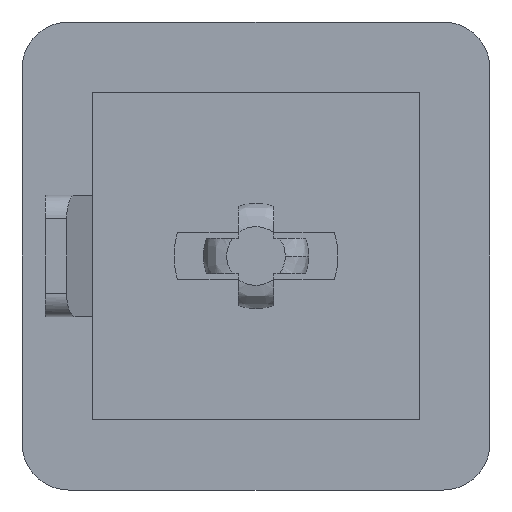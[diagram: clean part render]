
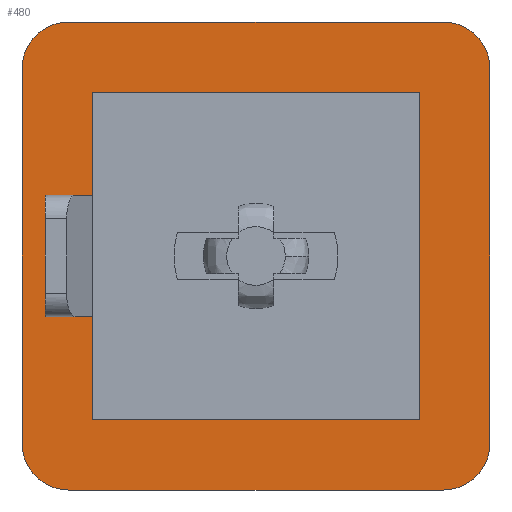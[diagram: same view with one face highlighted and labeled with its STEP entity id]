
A CAD part, front view. The second image highlights one B-rep face of the part: STEP entity #480.
In plain terms, the highlighted planar face has unit normal (0, -1, 0).
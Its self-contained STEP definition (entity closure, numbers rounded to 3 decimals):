
#60 = LINE ( 'NONE', #1282, #1123 ) ;
#65 = CARTESIAN_POINT ( 'NONE',  ( -10., 1.291, -6.209 ) ) ;
#82 = DIRECTION ( 'NONE',  ( 0., 0., 1. ) ) ;
#95 = DIRECTION ( 'NONE',  ( 1., 0., 0. ) ) ;
#134 = VERTEX_POINT ( 'NONE', #707 ) ;
#169 = VERTEX_POINT ( 'NONE', #904 ) ;
#170 = VECTOR ( 'NONE', #95, 1000. ) ;
#191 = ORIENTED_EDGE ( 'NONE', *, *, #1059, .T. ) ;
#218 = VECTOR ( 'NONE', #362, 1000. ) ;
#222 = AXIS2_PLACEMENT_3D ( 'NONE', #374, #363, #527 ) ;
#260 = DIRECTION ( 'NONE',  ( 1., 0., 0. ) ) ;
#270 = LINE ( 'NONE', #1076, #643 ) ;
#273 = ORIENTED_EDGE ( 'NONE', *, *, #1536, .T. ) ;
#282 = CARTESIAN_POINT ( 'NONE',  ( -10., 1.291, 13.791 ) ) ;
#339 = EDGE_CURVE ( 'NONE', #1781, #1254, #897, .T. ) ;
#343 = ORIENTED_EDGE ( 'NONE', *, *, #1545, .T. ) ;
#362 = DIRECTION ( 'NONE',  ( 0., 0., 1. ) ) ;
#363 = DIRECTION ( 'NONE',  ( 0., -1., 0. ) ) ;
#374 = CARTESIAN_POINT ( 'NONE',  ( -8., 1.291, 11.791 ) ) ;
#378 = EDGE_CURVE ( 'NONE', #604, #1624, #570, .T. ) ;
#388 = DIRECTION ( 'NONE',  ( 1., 0., 0. ) ) ;
#390 = DIRECTION ( 'NONE',  ( 0., 0., 1. ) ) ;
#396 = LINE ( 'NONE', #1121, #758 ) ;
#408 = DIRECTION ( 'NONE',  ( 0., -1., 0. ) ) ;
#409 = EDGE_CURVE ( 'NONE', #1099, #1046, #1520, .T. ) ;
#414 = CARTESIAN_POINT ( 'NONE',  ( 10., 1.291, -3.209 ) ) ;
#426 = CARTESIAN_POINT ( 'NONE',  ( -7., 1.291, -6.209 ) ) ;
#453 = PLANE ( 'NONE',  #1972 ) ;
#456 = CARTESIAN_POINT ( 'NONE',  ( 8., 1.291, 13.791 ) ) ;
#476 = CARTESIAN_POINT ( 'NONE',  ( -7., 1.291, -6.209 ) ) ;
#480 = ADVANCED_FACE ( 'NONE', ( #859, #926 ), #453, .T. ) ;
#490 = VERTEX_POINT ( 'NONE', #1464 ) ;
#527 = DIRECTION ( 'NONE',  ( -1., 0., 0. ) ) ;
#562 = CARTESIAN_POINT ( 'NONE',  ( -8., 1.291, -4.209 ) ) ;
#565 = VECTOR ( 'NONE', #390, 1000. ) ;
#569 = LINE ( 'NONE', #414, #980 ) ;
#570 = CIRCLE ( 'NONE', #222, 2. ) ;
#580 = ORIENTED_EDGE ( 'NONE', *, *, #1089, .T. ) ;
#585 = VERTEX_POINT ( 'NONE', #1939 ) ;
#604 = VERTEX_POINT ( 'NONE', #1471 ) ;
#612 = EDGE_CURVE ( 'NONE', #1254, #134, #60, .T. ) ;
#618 = ORIENTED_EDGE ( 'NONE', *, *, #1283, .T. ) ;
#619 = DIRECTION ( 'NONE',  ( 1., 0., 0. ) ) ;
#643 = VECTOR ( 'NONE', #1867, 1000. ) ;
#656 = CARTESIAN_POINT ( 'NONE',  ( 7., 1.291, -6.209 ) ) ;
#707 = CARTESIAN_POINT ( 'NONE',  ( -9., 1.291, 6.391 ) ) ;
#719 = LINE ( 'NONE', #65, #1507 ) ;
#751 = EDGE_CURVE ( 'NONE', #1892, #1099, #1049, .T. ) ;
#758 = VECTOR ( 'NONE', #82, 1000. ) ;
#812 = CARTESIAN_POINT ( 'NONE',  ( 7., 1.291, 10.791 ) ) ;
#827 = CARTESIAN_POINT ( 'NONE',  ( 10., 1.291, 11.791 ) ) ;
#833 = DIRECTION ( 'NONE',  ( -1., 0., 0. ) ) ;
#859 = FACE_BOUND ( 'NONE', #1153, .T. ) ;
#885 = ORIENTED_EDGE ( 'NONE', *, *, #751, .T. ) ;
#897 = LINE ( 'NONE', #1838, #931 ) ;
#904 = CARTESIAN_POINT ( 'NONE',  ( -8., 1.291, -6.209 ) ) ;
#913 = EDGE_CURVE ( 'NONE', #1198, #1000, #396, .T. ) ;
#926 = FACE_OUTER_BOUND ( 'NONE', #1087, .T. ) ;
#930 = VECTOR ( 'NONE', #1192, 1000. ) ;
#931 = VECTOR ( 'NONE', #946, 1000. ) ;
#932 = VERTEX_POINT ( 'NONE', #456 ) ;
#935 = CARTESIAN_POINT ( 'NONE',  ( 8., 1.291, -4.209 ) ) ;
#946 = DIRECTION ( 'NONE',  ( -1., 0., 0. ) ) ;
#980 = VECTOR ( 'NONE', #1988, 1000. ) ;
#1000 = VERTEX_POINT ( 'NONE', #827 ) ;
#1012 = ORIENTED_EDGE ( 'NONE', *, *, #339, .T. ) ;
#1014 = EDGE_CURVE ( 'NONE', #1198, #585, #1070, .T. ) ;
#1046 = VERTEX_POINT ( 'NONE', #1400 ) ;
#1049 = LINE ( 'NONE', #1650, #170 ) ;
#1059 = EDGE_CURVE ( 'NONE', #1499, #1892, #1394, .T. ) ;
#1070 = CIRCLE ( 'NONE', #1870, 2. ) ;
#1076 = CARTESIAN_POINT ( 'NONE',  ( -10., 1.291, 13.791 ) ) ;
#1080 = ORIENTED_EDGE ( 'NONE', *, *, #913, .T. ) ;
#1087 = EDGE_LOOP ( 'NONE', ( #1080, #1274, #1382, #1889, #343, #580, #1231, #1831 ) ) ;
#1089 = EDGE_CURVE ( 'NONE', #490, #169, #1732, .T. ) ;
#1099 = VERTEX_POINT ( 'NONE', #812 ) ;
#1110 = DIRECTION ( 'NONE',  ( 0., 0., -1. ) ) ;
#1121 = CARTESIAN_POINT ( 'NONE',  ( 10., 1.291, 13.791 ) ) ;
#1123 = VECTOR ( 'NONE', #1852, 1000. ) ;
#1153 = EDGE_LOOP ( 'NONE', ( #1233, #273, #618, #1012, #1926, #1442, #191, #885 ) ) ;
#1192 = DIRECTION ( 'NONE',  ( 0., 0., -1. ) ) ;
#1198 = VERTEX_POINT ( 'NONE', #1772 ) ;
#1225 = VECTOR ( 'NONE', #1110, 1000. ) ;
#1231 = ORIENTED_EDGE ( 'NONE', *, *, #1448, .T. ) ;
#1233 = ORIENTED_EDGE ( 'NONE', *, *, #409, .T. ) ;
#1254 = VERTEX_POINT ( 'NONE', #1354 ) ;
#1257 = EDGE_CURVE ( 'NONE', #932, #604, #270, .T. ) ;
#1274 = ORIENTED_EDGE ( 'NONE', *, *, #1647, .F. ) ;
#1282 = CARTESIAN_POINT ( 'NONE',  ( -9., 1.291, -6.209 ) ) ;
#1283 = EDGE_CURVE ( 'NONE', #1948, #1781, #1841, .T. ) ;
#1294 = AXIS2_PLACEMENT_3D ( 'NONE', #562, #1561, #833 ) ;
#1343 = LINE ( 'NONE', #282, #930 ) ;
#1354 = CARTESIAN_POINT ( 'NONE',  ( -9., 1.291, 1.191 ) ) ;
#1382 = ORIENTED_EDGE ( 'NONE', *, *, #1257, .T. ) ;
#1394 = LINE ( 'NONE', #476, #565 ) ;
#1400 = CARTESIAN_POINT ( 'NONE',  ( 7., 1.291, -3.209 ) ) ;
#1401 = LINE ( 'NONE', #1588, #1788 ) ;
#1442 = ORIENTED_EDGE ( 'NONE', *, *, #1546, .T. ) ;
#1444 = CARTESIAN_POINT ( 'NONE',  ( 10., 1.291, -6.209 ) ) ;
#1448 = EDGE_CURVE ( 'NONE', #169, #585, #719, .T. ) ;
#1464 = CARTESIAN_POINT ( 'NONE',  ( -10., 1.291, -4.209 ) ) ;
#1470 = CARTESIAN_POINT ( 'NONE',  ( -7., 1.291, -3.209 ) ) ;
#1471 = CARTESIAN_POINT ( 'NONE',  ( -8., 1.291, 13.791 ) ) ;
#1499 = VERTEX_POINT ( 'NONE', #2010 ) ;
#1506 = CARTESIAN_POINT ( 'NONE',  ( -10., 1.291, 11.791 ) ) ;
#1507 = VECTOR ( 'NONE', #619, 1000. ) ;
#1520 = LINE ( 'NONE', #656, #1225 ) ;
#1536 = EDGE_CURVE ( 'NONE', #1046, #1948, #569, .T. ) ;
#1545 = EDGE_CURVE ( 'NONE', #1624, #490, #1343, .T. ) ;
#1546 = EDGE_CURVE ( 'NONE', #134, #1499, #1401, .T. ) ;
#1549 = CARTESIAN_POINT ( 'NONE',  ( 8., 1.291, 11.791 ) ) ;
#1561 = DIRECTION ( 'NONE',  ( 0., -1., 0. ) ) ;
#1588 = CARTESIAN_POINT ( 'NONE',  ( 10., 1.291, 6.391 ) ) ;
#1612 = CARTESIAN_POINT ( 'NONE',  ( -7., 1.291, 1.191 ) ) ;
#1624 = VERTEX_POINT ( 'NONE', #1506 ) ;
#1640 = CIRCLE ( 'NONE', #1850, 2. ) ;
#1647 = EDGE_CURVE ( 'NONE', #932, #1000, #1640, .T. ) ;
#1650 = CARTESIAN_POINT ( 'NONE',  ( 10., 1.291, 10.791 ) ) ;
#1699 = CARTESIAN_POINT ( 'NONE',  ( -7., 1.291, 10.791 ) ) ;
#1702 = DIRECTION ( 'NONE',  ( -1., 0., 0. ) ) ;
#1732 = CIRCLE ( 'NONE', #1294, 2. ) ;
#1765 = DIRECTION ( 'NONE',  ( 0., 1., 0. ) ) ;
#1772 = CARTESIAN_POINT ( 'NONE',  ( 10., 1.291, -4.209 ) ) ;
#1781 = VERTEX_POINT ( 'NONE', #1612 ) ;
#1788 = VECTOR ( 'NONE', #260, 1000. ) ;
#1831 = ORIENTED_EDGE ( 'NONE', *, *, #1014, .F. ) ;
#1838 = CARTESIAN_POINT ( 'NONE',  ( 10., 1.291, 1.191 ) ) ;
#1841 = LINE ( 'NONE', #426, #218 ) ;
#1850 = AXIS2_PLACEMENT_3D ( 'NONE', #1549, #1860, #1871 ) ;
#1852 = DIRECTION ( 'NONE',  ( 0., 0., 1. ) ) ;
#1860 = DIRECTION ( 'NONE',  ( 0., 1., 0. ) ) ;
#1867 = DIRECTION ( 'NONE',  ( -1., 0., 0. ) ) ;
#1870 = AXIS2_PLACEMENT_3D ( 'NONE', #935, #1765, #1702 ) ;
#1871 = DIRECTION ( 'NONE',  ( -1., 0., 0. ) ) ;
#1889 = ORIENTED_EDGE ( 'NONE', *, *, #378, .T. ) ;
#1892 = VERTEX_POINT ( 'NONE', #1699 ) ;
#1926 = ORIENTED_EDGE ( 'NONE', *, *, #612, .T. ) ;
#1939 = CARTESIAN_POINT ( 'NONE',  ( 8., 1.291, -6.209 ) ) ;
#1948 = VERTEX_POINT ( 'NONE', #1470 ) ;
#1972 = AXIS2_PLACEMENT_3D ( 'NONE', #1444, #408, #388 ) ;
#1988 = DIRECTION ( 'NONE',  ( -1., 0., 0. ) ) ;
#2010 = CARTESIAN_POINT ( 'NONE',  ( -7., 1.291, 6.391 ) ) ;
